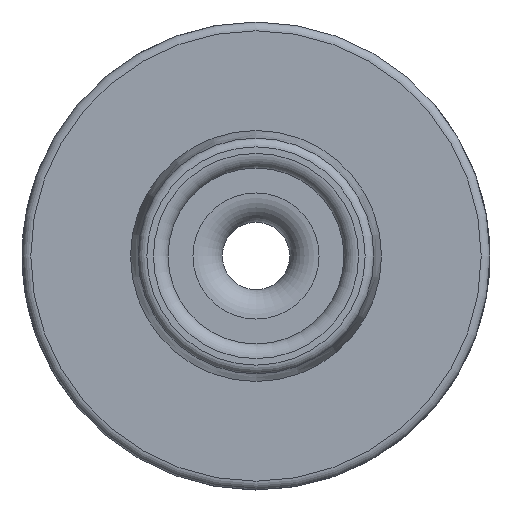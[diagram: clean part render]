
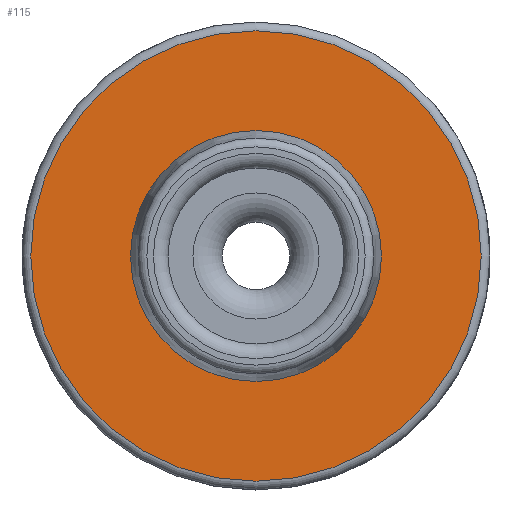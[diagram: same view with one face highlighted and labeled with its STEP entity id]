
A CAD part, left-side view. The second image highlights one B-rep face of the part: STEP entity #115.
In plain terms, the highlighted planar face has unit normal (-1, 0, 0).
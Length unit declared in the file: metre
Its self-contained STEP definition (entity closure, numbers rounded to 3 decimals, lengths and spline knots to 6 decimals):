
#115 = ADVANCED_FACE( '', ( #290, #291 ), #292, .F. );
#290 = FACE_BOUND( '', #1453, .T. );
#291 = FACE_OUTER_BOUND( '', #1454, .T. );
#292 = PLANE( '', #1455 );
#1453 = EDGE_LOOP( '', ( #1864 ) );
#1454 = EDGE_LOOP( '', ( #1865 ) );
#1455 = AXIS2_PLACEMENT_3D( '', #1866, #1867, #1868 );
#1864 = ORIENTED_EDGE( '', *, *, #2277, .F. );
#1865 = ORIENTED_EDGE( '', *, *, #2276, .T. );
#1866 = CARTESIAN_POINT( '', ( -0.0505, 0., 0.004 ) );
#1867 = DIRECTION( '', ( 1., 0., 0. ) );
#1868 = DIRECTION( '', ( 0., 0., -1. ) );
#2276 = EDGE_CURVE( '', #2493, #2493, #2494, .T. );
#2277 = EDGE_CURVE( '', #2495, #2495, #2496, .T. );
#2493 = VERTEX_POINT( '', #4826 );
#2494 = CIRCLE( '', #4827, 0.007682 );
#2495 = VERTEX_POINT( '', #4828 );
#2496 = CIRCLE( '', #4829, 0.003982 );
#4826 = CARTESIAN_POINT( '', ( -0.0505, 0., 0.0077 ) );
#4827 = AXIS2_PLACEMENT_3D( '', #5117, #5118, #5119 );
#4828 = CARTESIAN_POINT( '', ( -0.0505, 0., 0.004 ) );
#4829 = AXIS2_PLACEMENT_3D( '', #5120, #5121, #5122 );
#5117 = CARTESIAN_POINT( '', ( -0.0505, 0., 0.000018 ) );
#5118 = DIRECTION( '', ( -1., 0., 0. ) );
#5119 = DIRECTION( '', ( 0., 0., 1. ) );
#5120 = CARTESIAN_POINT( '', ( -0.0505, 0., 0.000018 ) );
#5121 = DIRECTION( '', ( -1., 0., 0. ) );
#5122 = DIRECTION( '', ( 0., 0., 1. ) );
